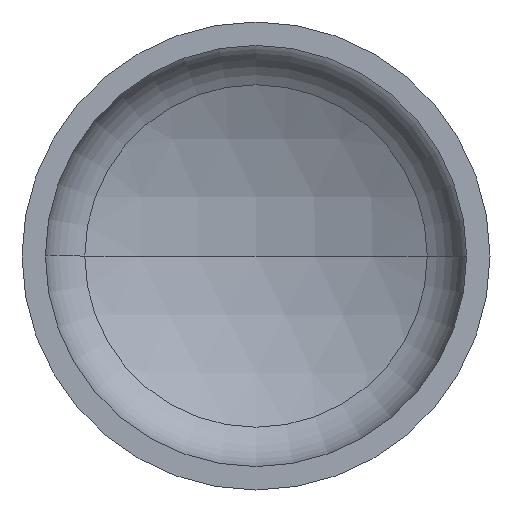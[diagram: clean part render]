
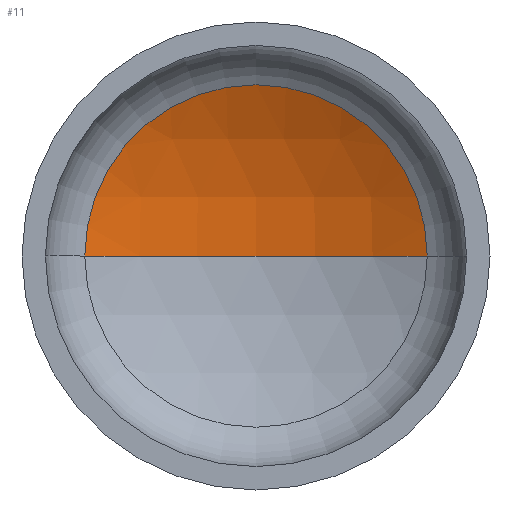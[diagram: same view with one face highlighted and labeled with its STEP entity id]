
A CAD part, front view. The second image highlights one B-rep face of the part: STEP entity #11.
In plain terms, the highlighted spherical face has radius 800 mm.
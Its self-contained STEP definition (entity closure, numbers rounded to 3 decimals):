
#2 = AXIS2_PLACEMENT_3D ( 'NONE', #164, #74, #346 ) ;
#11 = ADVANCED_FACE ( 'NONE', ( #232 ), #229, .F. ) ;
#23 = EDGE_LOOP ( 'NONE', ( #185, #168, #71 ) ) ;
#28 = AXIS2_PLACEMENT_3D ( 'NONE', #276, #192, #133 ) ;
#65 = VERTEX_POINT ( 'NONE', #222 ) ;
#71 = ORIENTED_EDGE ( 'NONE', *, *, #366, .T. ) ;
#74 = DIRECTION ( 'NONE',  ( 0., 0., 1. ) ) ;
#102 = DIRECTION ( 'NONE',  ( -1., 0., 0. ) ) ;
#106 = AXIS2_PLACEMENT_3D ( 'NONE', #239, #299, #102 ) ;
#121 = AXIS2_PLACEMENT_3D ( 'NONE', #280, #274, #256 ) ;
#133 = DIRECTION ( 'NONE',  ( 1., 0., 0. ) ) ;
#157 = VERTEX_POINT ( 'NONE', #159 ) ;
#159 = CARTESIAN_POINT ( 'NONE',  ( -365.891, 287.838, 0. ) ) ;
#164 = CARTESIAN_POINT ( 'NONE',  ( 0., -423.585, 0. ) ) ;
#168 = ORIENTED_EDGE ( 'NONE', *, *, #400, .T. ) ;
#185 = ORIENTED_EDGE ( 'NONE', *, *, #396, .F. ) ;
#192 = DIRECTION ( 'NONE',  ( 0., -1., 0. ) ) ;
#222 = CARTESIAN_POINT ( 'NONE',  ( 365.891, 287.838, 0. ) ) ;
#226 = VERTEX_POINT ( 'NONE', #407 ) ;
#229 = SPHERICAL_SURFACE ( 'NONE', #121, 800. ) ;
#232 = FACE_OUTER_BOUND ( 'NONE', #23, .T. ) ;
#235 = CIRCLE ( 'NONE', #28, 365.891 ) ;
#239 = CARTESIAN_POINT ( 'NONE',  ( 0., -423.585, 0. ) ) ;
#256 = DIRECTION ( 'NONE',  ( -1., 0., 0. ) ) ;
#274 = DIRECTION ( 'NONE',  ( 0., 0., -1. ) ) ;
#276 = CARTESIAN_POINT ( 'NONE',  ( 0., 287.838, 0. ) ) ;
#277 = CIRCLE ( 'NONE', #2, 800. ) ;
#280 = CARTESIAN_POINT ( 'NONE',  ( 0., -423.585, 0. ) ) ;
#299 = DIRECTION ( 'NONE',  ( 0., 0., -1. ) ) ;
#335 = CIRCLE ( 'NONE', #106, 800. ) ;
#346 = DIRECTION ( 'NONE',  ( 1., 0., 0. ) ) ;
#366 = EDGE_CURVE ( 'NONE', #65, #157, #235, .T. ) ;
#396 = EDGE_CURVE ( 'NONE', #226, #157, #277, .T. ) ;
#400 = EDGE_CURVE ( 'NONE', #226, #65, #335, .T. ) ;
#407 = CARTESIAN_POINT ( 'NONE',  ( 0., 376.415, 0. ) ) ;
